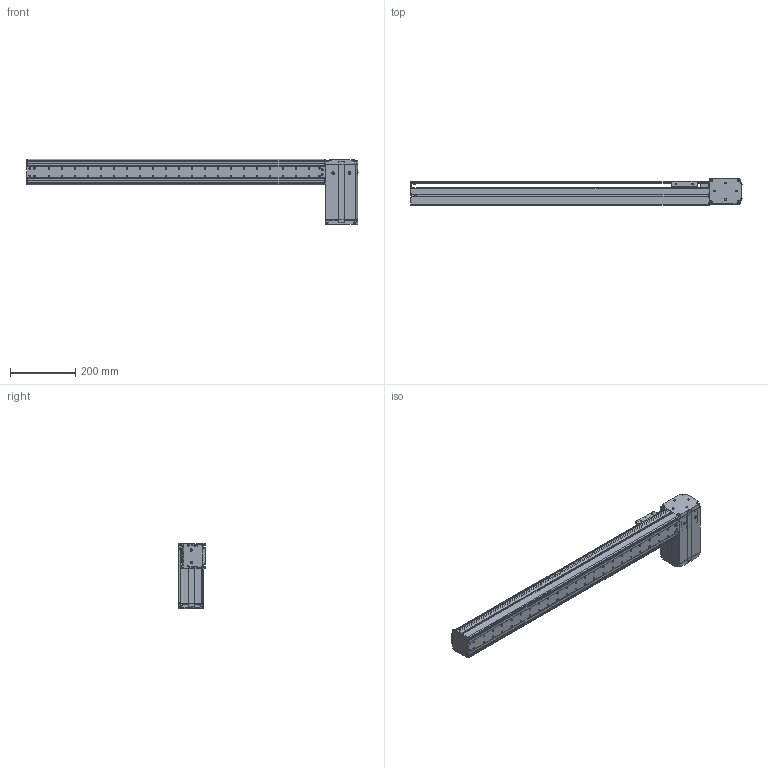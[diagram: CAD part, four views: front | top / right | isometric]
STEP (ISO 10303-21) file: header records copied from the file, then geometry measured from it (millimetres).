
FILE_DESCRIPTION((''),'2;1');
FILE_NAME('BE10_-BL-S_N-75_IGS_PRT','2017-06-18T',(' '),(''),'PRO/ENGINEER BY PARAMETRIC TECHNOLOGY CORPORATION, 2015030','PRO/ENGINEER BY PARAMETRIC TECHNOLOGY CORPORATION, 2015030','');
FILE_SCHEMA(('CONFIG_CONTROL_DESIGN'));
Products named in the file (1): BE10_-BL-S_N-75_IGS_PRT
Bounding box: 1020.8 x 82.5 x 200.22 mm (x, y, z)
Volume: 1276554.8 mm3; surface area: 916600.2 mm2
Topology: 3 solids, 132 shells, 2028 faces, 5543 edges, 3649 vertices
Faces by surface type: plane 987, cylinder 878, cone 103, sphere 30, torus 27, bspline 3
Entity records: 65970 total; most frequent: CARTESIAN_POINT 13457, DIRECTION 11136, ORIENTED_EDGE 10538, EDGE_CURVE 5489, AXIS2_PLACEMENT_3D 3969, VERTEX_POINT 3649, VECTOR 3198, LINE 3198
